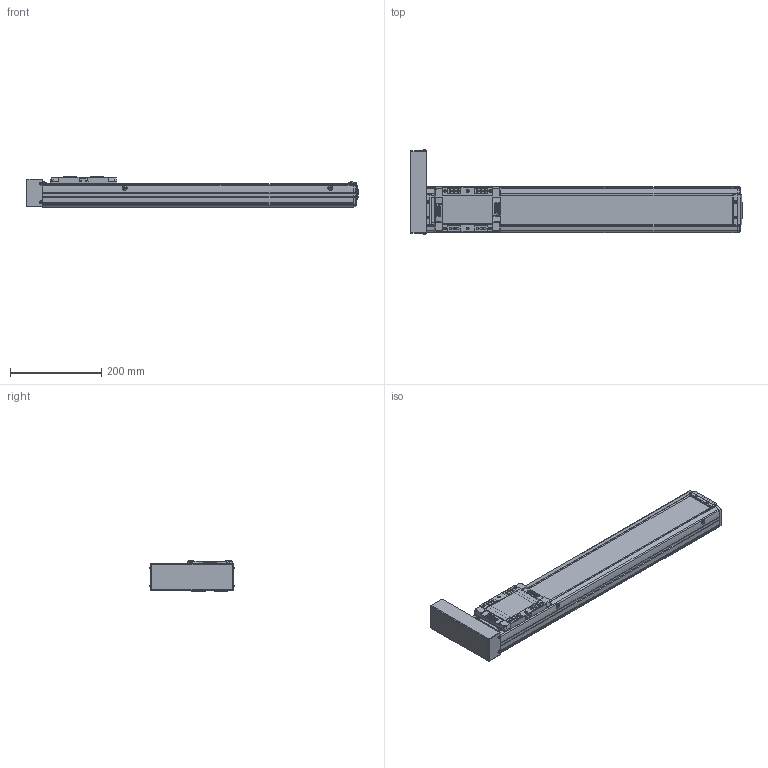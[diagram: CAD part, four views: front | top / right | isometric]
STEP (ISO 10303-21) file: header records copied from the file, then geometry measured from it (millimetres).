
FILE_DESCRIPTION(('STEP AP214'),'1');
FILE_NAME('Z:/Web/3D/SAN100/SAN100 양산용 (STEP)/SAN100ㅁㅁ-500PL.stp','2013-04-26T01:56:56',(' '),(' '),'Spatial InterOp 3D',' ',' ');
FILE_SCHEMA(('automotive_design'));
Length unit declared in the file: millimetre
Products named in the file (31): SUS COVER; SFX-SAN100; RRCV-SAN100; 스크루 : Round - M4.0 x 10.0; M3.0 x 6.0; 스크루 : Round - M3.0 x 6.0; FRBL-SAN100; SLBL-SAN100; SLCV-SAN100; 스크루 : Countersunk - M3.0 x 6.0; BASE; 스크루 : Round - M5.0 x 6.0; BTCV-SAN65; BHCS M3 X 6L
Bounding box: 726.5 x 184.13 x 66 mm (x, y, z)
Volume: 2278613.4 mm3; surface area: 519611.6 mm2
Topology: 31 solids, 32 shells, 1896 faces, 4952 edges, 3183 vertices
Faces by surface type: plane 931, cylinder 717, cone 170, sphere 44, torus 18, bspline 16
Entity records: 74814 total; most frequent: CARTESIAN_POINT 11368, DIRECTION 10431, ORIENTED_EDGE 9724, EDGE_CURVE 4862, AXIS2_PLACEMENT_3D 3747, VERTEX_POINT 3183, LINE 2937, VECTOR 2937
